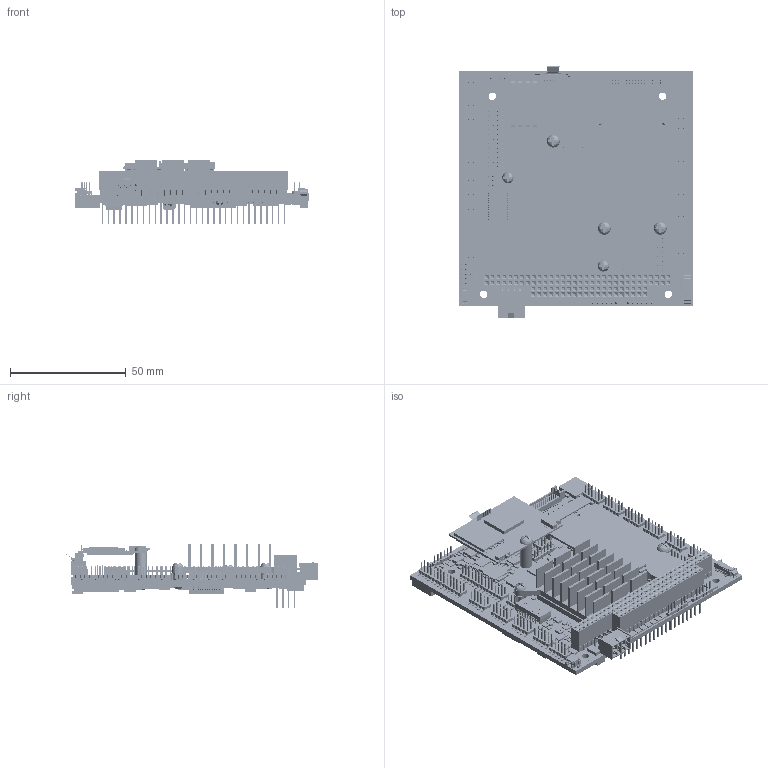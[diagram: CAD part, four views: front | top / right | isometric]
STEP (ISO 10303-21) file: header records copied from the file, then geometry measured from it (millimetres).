
FILE_DESCRIPTION((''),'2;1');
FILE_NAME('7110760_HELIX_REVA_OPT3_ASM','2016-05-16T',('user'),(''),'PRO/ENGINEER BY PARAMETRIC TECHNOLOGY CORPORATION, 2012130','PRO/ENGINEER BY PARAMETRIC TECHNOLOGY CORPORATION, 2012130','');
FILE_SCHEMA(('CONFIG_CONTROL_DESIGN'));
Products named in the file (1319): RES0402-36; CAP0402-106; LTST-C190GKT-1; CAP0603-30; INPAQ_MCM2012B900GBE-15; RES0402-140; CAP0805-9; CAP0402-331; CAP0402-132; RES0402-308; CAP0402-122; CAP0402-232; CAP0402-52; RES0402-280; WSON_05_0210X0210_080_8P-1; CAP0805-23; CAP0402-36; RES0402-348; RES0402-337; CAP0402-261; RES0402-381; RES0603-1; RES0402-212; CAP0402-230; RES0402-19; CAP0402-177; INPAQ_MCM2012B900GBE-8; CAP0402-290; RES0402-25; RES0402-20; CAP0402-10; INPAQ_MCM2012B900GBE-5; RES0402-366; CAP0402-116; CAP0402-327; RES0402-270; RES0402-176; RES0402-297; CAP0805-42; CAP0603-23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
Assembly tree (1356 placements, depth 5):
  7110760_HELIX_REVA_OPT3_ASM
    ASM0001_OPT3_ASM
      RES0402-36
      CAP0402-106
      LTST-C190GKT-1
      CAP0603-30
      INPAQ_MCM2012B900GBE-15
      RES0402-140
      CAP0805-9
      CAP0402-331
      CAP0402-132
      RES0402-308
      CAP0402-122
      CAP0402-232
      CAP0402-52
      RES0402-280
      WSON_05_0210X0210_080_8P-1
      CAP0805-23
      CAP0402-36
      RES0402-348
      RES0402-337
      CAP0402-261
      RES0402-381
      RES0603-1
      RES0402-212
      CAP0402-230
      RES0402-19
      CAP0402-177
      INPAQ_MCM2012B900GBE-8
      CAP0402-290
      RES0402-25
      RES0402-20
      CAP0402-10
      INPAQ_MCM2012B900GBE-5
      RES0402-366
      CAP0402-116
      CAP0402-327
      RES0402-270
      RES0402-176
      RES0402-297
      CAP0805-42
      CAP0603-23
      FB0402-31
      RES0402-107
      CAP0402-244
      CAP0402-92
      CAP0402-305
      RES0402-267
      CAP0402-219
      RES0402-205
      CAP0402-55
      CAP0402-336
      CAP0402-322
      RES0402-343
      RES0402-118
      CAP0402-205
      RES0402-32
      CAP0402-160
      CAP0402-432
      RES0402-147
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Bounding box: 101.6 x 108.8 x 28.09 mm (x, y, z)
Volume: 56073.6 mm3; surface area: 91941.8 mm2
Topology: 1531 solids, 1532 shells, 27120 faces, 68006 edges, 43930 vertices
Faces by surface type: plane 24392, cylinder 2490, extrusion 106, bspline 64, cone 56, torus 12
Entity records: 655269 total; most frequent: CARTESIAN_POINT 123135, DIRECTION 105090, ORIENTED_EDGE 104312, EDGE_CURVE 52218, VECTOR 48238, LINE 48185, VERTEX_POINT 34007, AXIS2_PLACEMENT_3D 28426
